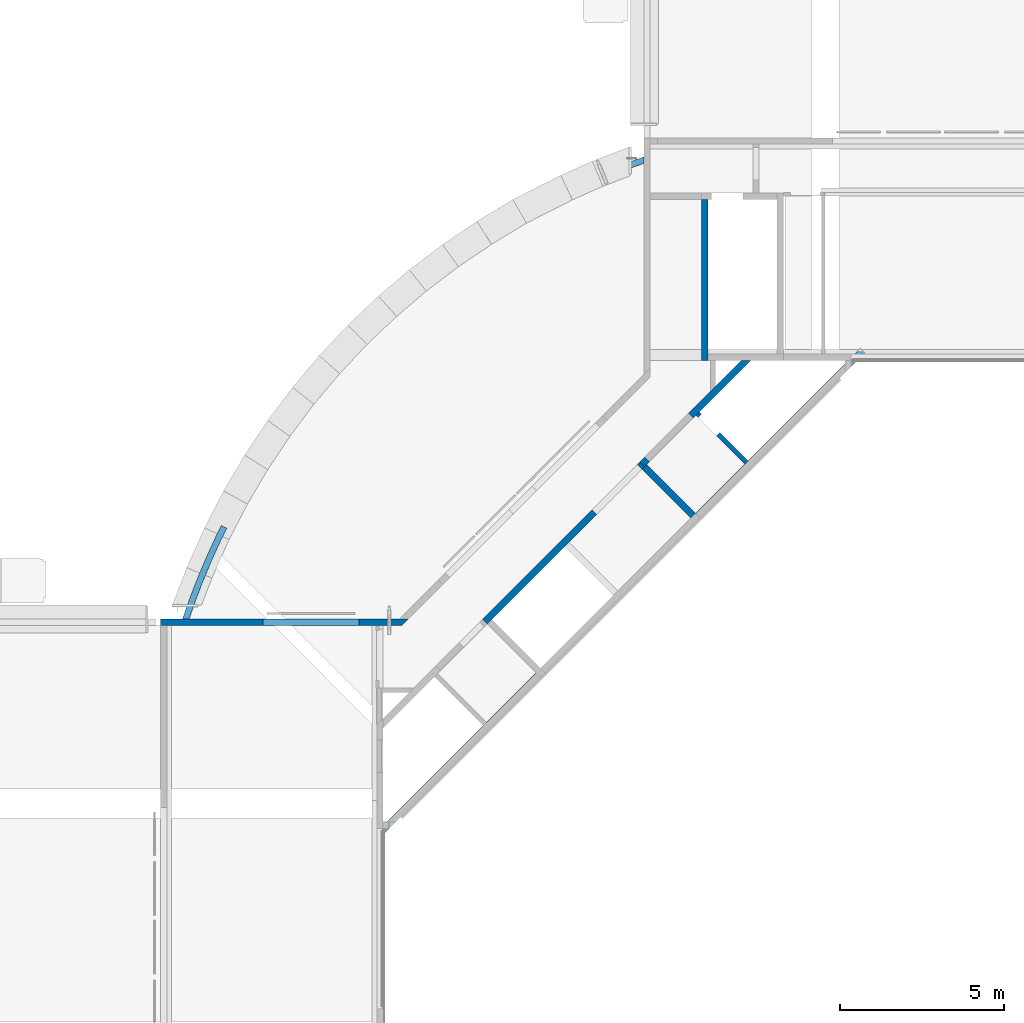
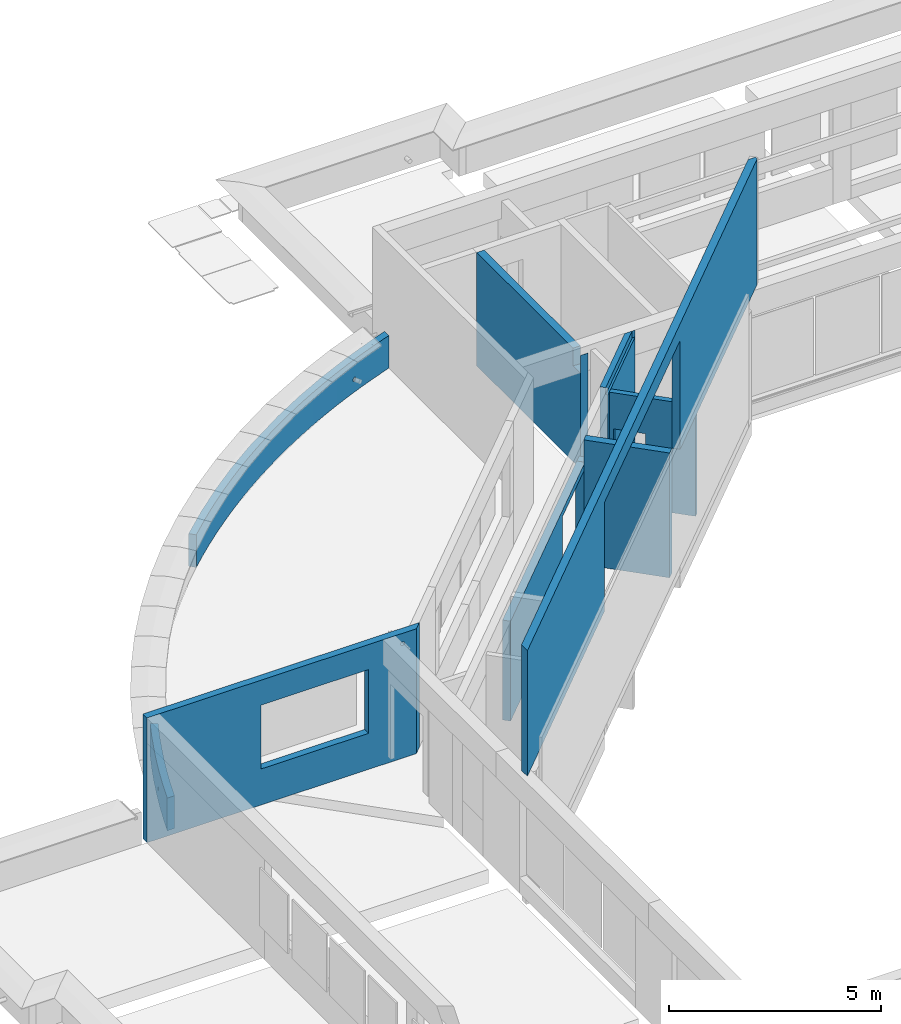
# One storey, part 25 of 38: 10 walls.
"""IFC4X3_ADD2 building model written with IfcOpenShell, lengths in millimetres."""

from ifc_helpers import new_model, si_unit, direction, frame, origin_with_axes, place, context, subcontext, project, spatial, polygons, element, save


model = new_model("IFC4X3_ADD2")

# Units and contexts
model_context = context("Model", 3, precision=1e-05, world=origin_with_axes(), true_north=direction((0.0, 1.0)))
body_context = subcontext(model_context, "Body", "Model", "MODEL_VIEW")
ifc_project = project(units=[si_unit("LENGTHUNIT", "METRE", prefix="MILLI"), si_unit("AREAUNIT", "SQUARE_METRE"), si_unit("VOLUMEUNIT", "CUBIC_METRE"), si_unit("PLANEANGLEUNIT", "RADIAN"), si_unit("TIMEUNIT", "SECOND"), si_unit("MASSUNIT", "GRAM")], contexts=[model_context])

# Site, building, storey
site_placement = place(None, origin_with_axes())
site = spatial("IfcSite", under=ifc_project, at=site_placement, Name="Site", CompositionType="ELEMENT")
building_placement = place(site_placement, origin_with_axes())
building = spatial("IfcBuilding", under=site, at=building_placement, Name="IFC Building Story")
storey_placement = place(building_placement, frame((0.0, 0.0, 10800.0), z_axis=(0.0, 0.0, 1.0), x_axis=(1.0, 0.0, 0.0)))
storey = spatial("IfcBuildingStorey", under=building, at=storey_placement, Name="030", Elevation=10800.0)

# Walls
wall_1_placement = place(storey_placement, frame((0.0, 0.0, -10800.0), z_axis=(0.0, 0.0, 1.0), x_axis=(1.0, 0.0, 0.0)))
element("IfcWall", 1, at=wall_1_placement, inside=storey, Name="Basic Wall:BB_XX_Wand uit beton, 200 mm", ObjectType="Basic Wall:BB_XX_Wand uit beton, 200 mm", PredefinedType="SOLIDWALL", context=body_context, shape_type="Tessellation", body=[
    polygons([(-30719.00667860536, 35293.98755288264, 14200.0), (-30719.00667860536, 35293.98755288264, 10600.0), (-29234.08243811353, 33809.0633123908, 10600.0), (-29234.08243811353, 33809.0633123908, 14200.0), (-30577.58532236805, 35435.40890911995, 10600.0), (-30577.58532236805, 35435.40890911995, 14200.0), (-29092.66108187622, 33950.48466862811, 14200.0), (-29092.66108187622, 33950.48466862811, 10600.0)], [[[1, 2, 3, 4]], [[5, 6, 7, 8]], [[2, 5, 8, 3]], [[6, 1, 4, 7]], [[2, 1, 6, 5]], [[4, 3, 8, 7]]]),
])
wall_2_placement = place(storey_placement, frame((0.0, 0.0, -10800.0), z_axis=(0.0, 0.0, 1.0), x_axis=(1.0, 0.0, 0.0)))
element("IfcWall", 2, at=wall_2_placement, inside=storey, Name="Basic Wall:BB_XX_Wand uit beton, 200 mm", ObjectType="Basic Wall:BB_XX_Wand uit beton, 200 mm", PredefinedType="SOLIDWALL", context=body_context, shape_type="Tessellation", body=[
    polygons([(-28700.0, 38599.9959341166, 10720.0), (-28700.0, 43500.00000000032, 10720.0), (-28700.0, 43500.00000000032, 13990.0), (-28700.0, 38944.9959341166, 13990.0), (-28700.0, 38944.9959341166, 13479.99999999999), (-28700.0, 38604.9959341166, 13479.99999999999), (-28700.0, 38604.9959341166, 13990.0), (-28700.0, 38599.9959341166, 13990.0), (-28900.0, 43500.00000000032, 10720.0), (-28900.0, 38599.9959341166, 10720.0), (-28900.0, 38599.9959341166, 13990.0), (-28900.0, 38604.9959341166, 13990.0), (-28900.0, 38604.9959341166, 13479.99999999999), (-28900.0, 38944.9959341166, 13479.99999999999), (-28900.0, 38944.9959341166, 13990.0), (-28900.0, 43500.00000000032, 13990.0)], [[[6, 7, 8]], [[6, 8, 1]], [[1, 5, 6]], [[5, 1, 2]], [[5, 2, 3]], [[3, 4, 5]], [[14, 15, 16]], [[16, 9, 10]], [[16, 10, 14]], [[10, 13, 14]], [[10, 11, 13]], [[11, 12, 13]], [[2, 1, 10, 9]], [[3, 16, 15, 4]], [[1, 8, 11, 10]], [[14, 5, 4, 15]], [[5, 14, 13, 6]], [[6, 13, 12, 7]], [[3, 2, 9, 16]], [[11, 8, 7, 12]]]),
])
wall_3_placement = place(storey_placement, frame((0.0, 0.0, -10800.0), z_axis=(0.0, 0.0, 1.0), x_axis=(1.0, 0.0, 0.0)))
element("IfcWall", 3, at=wall_3_placement, inside=storey, Name="Basic Wall:BB_XX_Wand uit beton, 190 mm", ObjectType="Basic Wall:BB_XX_Wand uit beton, 190 mm", PredefinedType="SOLIDWALL", context=body_context, shape_type="Tessellation", body=[
    polygons([(-43788.29660811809, 32590.23681334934, 11540.0), (-43580.53224386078, 33045.69682025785, 11540.0), (-43362.53615556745, 33496.3491856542, 11540.0), (-43532.63045651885, 33581.01280702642, 11540.0), (-43757.04823159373, 33116.80155746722, 11540.0), (-43970.70166419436, 32647.53869645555, 11540.0), (-44173.47712704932, 32173.47379198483, 11540.0), (-44365.2667781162, 31694.85896591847, 11540.0), (-44545.96861793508, 31211.94875990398, 11540.0), (-44715.48654387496, 30725.00000000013, 11540.0), (-44514.99716734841, 30724.99999999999, 11540.0), (-44349.16624706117, 31197.34516492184, 11540.0), (-44172.71162831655, 31665.82527813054, 11540.0), (-43985.72329633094, 32130.20143239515, 11540.0), (-44715.48654387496, 30725.00000000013, 10600.0), (-44545.96861793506, 31211.948759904, 10600.0), (-44365.26677811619, 31694.85896591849, 10600.0), (-44173.47712704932, 32173.47379198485, 10600.0), (-43970.70166419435, 32647.53869645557, 10600.0), (-43757.04823159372, 33116.80155746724, 10600.0), (-43532.63045651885, 33581.01280702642, 10600.0), (-43362.53615556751, 33496.34918565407, 10600.0), (-43580.53224386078, 33045.69682025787, 10600.0), (-43788.29660811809, 32590.23681334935, 10600.0), (-43985.72329633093, 32130.20143239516, 10600.0), (-44172.71162831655, 31665.82527813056, 10600.0), (-44349.16624706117, 31197.34516492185, 10600.0), (-44514.99716734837, 30725.00000000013, 10600.0), (-44128.19210370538, 31779.17305187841, 10980.18245299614), (-44126.98962944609, 31782.20873289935, 10989.16691625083), (-44125.7871551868, 31785.24441392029, 10998.15137950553), (-44121.26353613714, 31796.65029265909, 11012.79344761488), (-44115.15268004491, 31812.02906341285, 11022.35997571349), (-44112.81722332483, 31817.89291205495, 11023.47420508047), (-44108.18979032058, 31829.51143896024, 11025.68191961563), (-44118.20810809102, 31804.33967803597, 11017.57671166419), (-44128.19150766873, 31779.17455723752, 10961.08225724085), (-44125.78523517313, 31785.24925896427, 10943.11224327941), (-44126.98837142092, 31782.2119081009, 10952.09725026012), (-44121.26245086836, 31796.65302685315, 10928.47482574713), (-44108.18979032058, 31829.51143896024, 10915.58647491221), (-44115.14933037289, 31812.03748413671, 10918.90578227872), (-44118.20589062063, 31804.34525549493, 10923.69030401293), (-44101.21206280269, 31846.98789760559, 11022.35997571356), (-44098.13784921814, 31854.66979182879, 11017.57671166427), (-44095.06363563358, 31862.35168605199, 11012.79344761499), (-44090.49734210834, 31873.74054738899, 10998.15137950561), (-44089.28093975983, 31876.77067427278, 10989.16691625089), (-44088.06453741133, 31879.80080115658, 10980.18245299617), (-44103.55249633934, 31841.12603358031, 11023.47420508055), (-44088.06514079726, 31879.79929872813, 10961.08225724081), (-44089.28221186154, 31876.76750468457, 10952.09725026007), (-44090.49928292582, 31873.735710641, 10943.11224327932), (-44095.06472962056, 31862.34895533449, 10928.47482574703), (-44098.14007819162, 31854.66421895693, 10923.69030401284), (-44101.21542676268, 31846.97948257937, 10918.90578227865), (-44264.5508442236, 31950.17692424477, 10953.16558240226), (-44277.70067163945, 31917.35692291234, 10910.98911297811), (-44274.62540239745, 31925.04169237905, 10915.77363239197), (-44271.55013315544, 31932.72646184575, 10920.55815180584), (-44266.9848669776, 31944.11329131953, 10935.1955676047), (-44265.7678556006, 31947.14510778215, 10944.18057500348), (-44284.67497240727, 31899.88885368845, 10907.66980824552), (-44264.55024285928, 31950.17842172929, 10972.26577798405), (-44271.54904161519, 31932.72918656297, 11004.87677369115), (-44265.7665864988, 31947.14827006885, 10981.25024085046), (-44266.98293013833, 31944.11811840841, 10990.23470371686), (-44274.62317489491, 31925.04726171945, 11009.66004007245), (-44277.69730817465, 31917.36533687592, 11014.44330645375), (-44281.18614029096, 31908.62709528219, 11016.10427970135), (-44284.67497240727, 31899.88885368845, 11017.76525294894), (-44291.63457563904, 31882.41492349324, 10910.98911297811), (-44302.2708231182, 31855.6268298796, 10935.1955676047), (-44297.74785679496, 31867.03052736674, 10920.55815180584), (-44294.691216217, 31874.72272542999, 10915.77363239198), (-44304.6772130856, 31849.55217776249, 10953.16558240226), (-44304.67780718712, 31849.55067738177, 10972.26577798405), (-44303.4740181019, 31852.58950382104, 10944.18057500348), (-44297.74893971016, 31867.02779921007, 11004.87677369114), (-44302.27273937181, 31855.62199458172, 10990.23470371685), (-44288.15644867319, 31891.14767878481, 11016.10427970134), (-44291.63792493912, 31882.40650388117, 11014.44330645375), (-44294.69343232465, 31874.71715154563, 11009.66004007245), (-44303.47527327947, 31852.58633598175, 10981.25024085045)], [[[2, 3, 4]], [[2, 4, 5]], [[5, 6, 1]], [[5, 1, 2]], [[9, 10, 11]], [[9, 11, 12]], [[12, 13, 8]], [[12, 8, 9]], [[13, 14, 7]], [[13, 7, 8]], [[14, 1, 6]], [[14, 6, 7]], [[20, 21, 22]], [[20, 22, 23]], [[23, 24, 19]], [[23, 19, 20]], [[24, 25, 18]], [[24, 18, 19]], [[25, 26, 17]], [[25, 17, 18]], [[26, 27, 16]], [[26, 16, 17]], [[27, 28, 15]], [[27, 15, 16]], [[12, 11, 28, 27]], [[12, 29, 30, 31]], [[13, 12, 32]], [[29, 12, 27]], [[13, 33, 34, 35]], [[12, 31, 32]], [[13, 32, 36, 33]], [[35, 14, 13]], [[37, 29, 27]], [[27, 26, 38]], [[27, 38, 39, 37]], [[26, 40, 38]], [[26, 41, 42]], [[26, 42, 43, 40]], [[25, 41, 26]], [[14, 44, 45, 46]], [[1, 47, 48, 49]], [[47, 1, 46]], [[46, 1, 14]], [[2, 1, 24, 23]], [[24, 1, 49]], [[14, 35, 50, 44]], [[3, 2, 23, 22]], [[25, 51, 52, 53]], [[25, 54, 55, 56]], [[54, 25, 53]], [[24, 51, 25]], [[24, 49, 51]], [[41, 25, 56]], [[4, 3, 22, 21]], [[19, 6, 5, 20]], [[20, 5, 4, 21]], [[19, 18, 57]], [[18, 58, 59, 60]], [[18, 61, 62, 57]], [[60, 61, 18]], [[18, 63, 58]], [[57, 64, 19]], [[7, 6, 65]], [[6, 64, 66, 67]], [[7, 65, 68, 69]], [[67, 65, 6]], [[64, 6, 19]], [[7, 69, 70, 71]], [[72, 63, 17]], [[73, 74, 17]], [[17, 74, 75, 72]], [[76, 16, 77]], [[16, 76, 78, 73]], [[16, 73, 17]], [[16, 15, 10, 9]], [[63, 18, 17]], [[79, 80, 9]], [[8, 71, 81, 82]], [[8, 82, 83, 79]], [[16, 9, 77]], [[8, 79, 9]], [[9, 80, 84, 77]], [[71, 8, 7]], [[15, 28, 11, 10]], [[81, 71, 35]], [[81, 35, 34]], [[34, 33, 82]], [[34, 82, 81]], [[29, 77, 84]], [[84, 80, 30]], [[83, 82, 33]], [[83, 33, 36]], [[36, 32, 79]], [[36, 79, 83]], [[31, 30, 80]], [[30, 29, 84]], [[31, 80, 79]], [[39, 38, 78]], [[39, 78, 76]], [[76, 37, 39]], [[38, 73, 78]], [[32, 31, 79]], [[75, 74, 40]], [[75, 40, 43]], [[43, 42, 72]], [[43, 72, 75]], [[29, 37, 77]], [[40, 74, 73, 38]], [[41, 63, 72, 42]], [[77, 37, 76]], [[58, 63, 41, 56]], [[61, 60, 54, 53]], [[45, 44, 69]], [[45, 69, 68]], [[68, 65, 46]], [[68, 46, 45]], [[59, 58, 56]], [[59, 56, 55]], [[55, 54, 60]], [[55, 60, 59]], [[62, 61, 53]], [[52, 51, 57]], [[57, 62, 53]], [[57, 53, 52]], [[48, 47, 67]], [[48, 66, 49]], [[70, 69, 44]], [[70, 44, 50]], [[50, 35, 71]], [[50, 71, 70]], [[51, 64, 57]], [[67, 66, 48]], [[66, 64, 49]], [[47, 65, 67]], [[65, 47, 46]], [[51, 49, 64]]]),
])
wall_4_placement = place(storey_placement, frame((0.0, 0.0, -10800.0), z_axis=(0.0, 0.0, 1.0), x_axis=(1.0, 0.0, 0.0)))
element("IfcWall", 4, at=wall_4_placement, inside=storey, Name="Basic Wall:BB_XX_Wand uit beton, 190 mm", ObjectType="Basic Wall:BB_XX_Wand uit beton, 190 mm", PredefinedType="SOLIDWALL", context=body_context, shape_type="Tessellation", body=[
    polygons([(-32003.43823028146, 44303.17312906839, 11540.0), (-32884.13354008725, 43919.53611184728, 11540.0), (-33747.53603304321, 43498.42293443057, 11540.0), (-34592.05214952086, 43040.61091948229, 11540.0), (-35820.01491762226, 42286.94919574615, 11540.0), (-36610.57899641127, 41741.23129421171, 11540.0), (-37376.97233051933, 41162.05780368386, 11540.0), (-38117.78032098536, 40550.49764078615, 11540.0), (-38831.63556707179, 39907.67947073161, 11540.0), (-38701.49036344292, 39769.25177851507, 11540.0), (-38334.18241501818, 40106.87714555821, 11540.0), (-37959.36957754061, 40436.15108472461, 11540.0), (-37577.24167705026, 40756.90683492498, 11540.0), (-37187.99226498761, 41068.98193116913, 11540.0), (-36791.81849471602, 41372.21830972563, 11540.0), (-36388.9210266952, 41666.46238365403, 11540.0), (-35979.50392686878, 41951.56512057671, 11540.0), (-35563.77456330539, 42227.38211816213, 11540.0), (-35141.94350116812, 42493.77367726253, 11540.0), (-34714.22439606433, 42750.60487266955, 11540.0), (-34280.83388583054, 42997.74562145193, 11540.0), (-33841.99148080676, 43235.07074884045, 11540.0), (-33397.91945265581, 43462.46005162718, 11540.0), (-32948.8427217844, 43679.7983590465, 11540.0), (-32494.98874342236, 43886.97559110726, 11540.0), (-32036.58739241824, 44083.88681434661, 11540.0), (-31573.87084680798, 44270.43229497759, 11540.0), (-31107.07497289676, 44446.51700179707, 11540.0), (-31073.08777549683, 44458.87120788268, 11540.0), (-31039.07497289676, 44471.17193722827, 11540.0), (-30849.84099896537, 44538.46668262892, 11540.0), (-30660.00000000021, 44604.04596498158, 11540.0), (-30660.00000000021, 44804.65227189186, 11540.0), (-30735.04835180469, 44779.20095321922, 11540.0), (-30810.00431283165, 44753.48437358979, 11540.0), (-30924.64960639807, 44713.57499193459, 11540.0), (-31039.07497289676, 44673.04428232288, 11540.0), (-31073.08830234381, 44660.8613712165, 11540.0), (-31107.07497289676, 44648.62601305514, 11540.0), (-38701.49036344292, 39769.25177851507, 10600.0), (-38831.63556707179, 39907.67947073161, 10600.0), (-38079.99600862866, 40583.00626400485, 10600.0), (-37298.61106543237, 41223.68228412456, 10600.0), (-36489.07672949, 41828.39894889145, 10600.0), (-35653.0464876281, 42395.92112355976, 10600.0), (-35003.05855753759, 42785.43576334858, 10600.0), (-34353.07062744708, 43174.95040313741, 10600.0), (-33458.38116335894, 43644.5869794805, 10600.0), (-32543.38603180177, 44073.31950150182, 10600.0), (-31609.95412181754, 44460.27228374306, 10600.0), (-30660.00000000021, 44804.65227189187, 10600.0), (-30660.00000000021, 44604.0459649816, 10600.0), (-31129.21642247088, 44438.43488746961, 10600.0), (-31594.60669858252, 44262.33062994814, 10600.0), (-32055.92709697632, 44075.82506784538, 10600.0), (-32512.94518706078, 43879.01216846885, 10600.0), (-32965.43070583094, 43671.9910922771, 10600.0), (-33413.1556738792, 43454.86614292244, 10600.0), (-33855.89451025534, 43227.74671470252, 10600.0), (-34293.4241461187, 42990.74723744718, 10600.0), (-34725.52413712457, 42743.98711886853, 10600.0), (-35151.97677448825, 42487.59068440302, 10600.0), (-35572.56719467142, 42221.68711457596, 10600.0), (-35987.08348763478, 41946.41037992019, 10600.0), (-36395.3168036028, 41661.89917348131, 10600.0), (-36797.06145828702, 41368.29684094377, 10600.0), (-37192.11503651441, 41065.75130841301, 10600.0), (-37580.27849420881, 40754.41500788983, 10600.0), (-37961.35625867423, 40434.44480047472, 10600.0), (-38335.15631309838, 40106.00190995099, 10600.0), (-31893.30211107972, 44142.94893631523, 11012.79344761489), (-31860.54707929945, 44156.28631457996, 11025.68191961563), (-31848.95859465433, 44160.98847656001, 11023.47420508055), (-31843.10990828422, 44163.36164885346, 11022.35997571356), (-31877.97823797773, 44149.19618092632, 11022.35997571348), (-31872.13156823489, 44151.57431715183, 11023.47420508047), (-31904.6613286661, 44138.30939162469, 10998.15137950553), (-31885.64017452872, 44146.07255862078, 11017.57671166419), (-31910.70578915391, 44135.83760849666, 10980.18245299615), (-31907.68355891, 44137.07350006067, 10989.16691625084), (-31827.77081122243, 44169.57141965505, 11012.79344761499), (-31816.39430175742, 44174.1684003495, 10998.15137950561), (-31813.36642779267, 44175.39039988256, 10989.16691625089), (-31810.33855382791, 44176.61239941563, 10980.18245299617), (-31835.44035975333, 44166.46653425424, 11017.57671166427), (-31910.70429064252, 44135.83822154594, 10961.08225724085), (-31893.29938746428, 44142.95004786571, 10928.47482574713), (-31904.65650451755, 44138.31136355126, 10943.1122432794), (-31907.68039758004, 44137.07479254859, 10952.09725026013), (-31860.54707929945, 44156.28631457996, 10915.58647491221), (-31877.96984479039, 44149.19959901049, 10918.90578227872), (-31885.63461612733, 44146.0748234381, 10923.69030401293), (-31816.39913433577, 44174.16644917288, 10943.11224327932), (-31827.77353837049, 44169.57031680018, 10928.47482574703), (-31810.34005531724, 44176.61179369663, 10961.08225724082), (-31813.36959482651, 44175.38912143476, 10952.09725026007), (-31843.1183072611, 44163.35824502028, 10918.90578227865), (-31835.4459228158, 44166.46428091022, 10923.69030401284), (-31881.85131247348, 44352.64120119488, 10972.26577798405), (-31881.852808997, 44352.64059744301, 10953.16558240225), (-31887.91183765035, 44350.19513576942, 10935.1955676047), (-31884.88232332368, 44351.41786660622, 10944.18057500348), (-31884.87916363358, 44351.41914215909, 10981.25024085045), (-31887.90701479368, 44350.19708312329, 10990.23470371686), (-31932.05962381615, 44332.31459633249, 10907.66980824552), (-31914.63087681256, 44339.38658979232, 10910.98911297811), (-31949.48241531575, 44325.22794338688, 10910.98911297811), (-31899.2861701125, 44345.59882183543, 10920.55815180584), (-31964.81202518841, 44318.9785504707, 10920.55815180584), (-31957.14722025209, 44322.10324692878, 10915.77363239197), (-31906.95852346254, 44342.49270581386, 10915.77363239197), (-31899.28344898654, 44345.59992229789, 11004.87677369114), (-31906.95296396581, 44342.49495777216, 11009.66004007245), (-31914.62247894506, 44339.38999324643, 11014.44330645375), (-31923.34105138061, 44335.85229478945, 11016.10427970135), (-31932.05962381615, 44332.31459633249, 11017.76525294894), (-31940.77521562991, 44328.7695610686, 11016.10427970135), (-31949.49080744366, 44325.22452580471, 11014.44330645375), (-31982.21854288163, 44311.86641227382, 10972.26577798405), (-31982.21704930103, 44311.86702326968, 10953.16558240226), (-31979.19313343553, 44313.10353473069, 10944.18057500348), (-31976.16921757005, 44314.3400461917, 10935.19556760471), (-31964.81474281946, 44318.97744140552, 11004.87677369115), (-31976.17403208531, 44314.33807830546, 10990.23470371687), (-31979.19628748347, 44313.10224528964, 10981.25024085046), (-31957.15277513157, 44322.10098360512, 11009.66004007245)], [[[11, 12, 8]], [[8, 9, 10]], [[8, 10, 11]], [[13, 14, 7]], [[7, 8, 12]], [[7, 12, 13]], [[15, 16, 6]], [[6, 7, 14]], [[6, 14, 15]], [[17, 18, 5]], [[5, 6, 16]], [[5, 16, 17]], [[20, 21, 4]], [[4, 5, 19]], [[4, 19, 20]], [[5, 18, 19]], [[21, 22, 3]], [[21, 3, 4]], [[23, 24, 2]], [[23, 2, 3]], [[3, 22, 23]], [[25, 26, 1]], [[25, 1, 2]], [[2, 24, 25]], [[35, 36, 31]], [[35, 31, 32]], [[32, 34, 35]], [[32, 33, 34]], [[38, 39, 30]], [[30, 37, 38]], [[30, 31, 36]], [[30, 36, 37]], [[39, 29, 30]], [[39, 28, 29]], [[39, 1, 27]], [[39, 27, 28]], [[1, 26, 27]], [[53, 54, 50]], [[50, 51, 52]], [[50, 52, 53]], [[55, 56, 49]], [[49, 50, 54]], [[49, 54, 55]], [[57, 58, 48]], [[48, 49, 56]], [[48, 56, 57]], [[59, 60, 47]], [[47, 48, 58]], [[47, 58, 59]], [[60, 61, 46]], [[60, 46, 47]], [[62, 63, 45]], [[62, 45, 46]], [[46, 61, 62]], [[64, 65, 44]], [[44, 45, 63]], [[44, 63, 64]], [[66, 67, 43]], [[43, 44, 65]], [[43, 65, 66]], [[68, 69, 42]], [[42, 43, 67]], [[42, 67, 68]], [[70, 40, 41]], [[41, 42, 69]], [[41, 69, 70]], [[69, 12, 11]], [[70, 11, 10]], [[67, 14, 13]], [[65, 16, 15]], [[66, 15, 14]], [[68, 13, 12]], [[63, 18, 17]], [[61, 20, 19]], [[62, 19, 18]], [[59, 22, 21]], [[57, 24, 23]], [[58, 23, 22]], [[60, 21, 20]], [[64, 17, 16]], [[40, 70, 10]], [[70, 69, 11]], [[69, 68, 12]], [[68, 67, 13]], [[14, 67, 66]], [[15, 66, 65]], [[65, 64, 16]], [[64, 63, 17]], [[62, 18, 63]], [[19, 62, 61]], [[20, 61, 60]], [[59, 21, 60]], [[22, 59, 58]], [[58, 57, 23]], [[57, 56, 24]], [[26, 25, 71]], [[27, 72, 73, 74]], [[26, 75, 76, 72]], [[25, 77, 71]], [[26, 71, 78, 75]], [[27, 26, 72]], [[25, 79, 80, 77]], [[81, 28, 27]], [[29, 28, 53]], [[28, 82, 83, 84]], [[82, 28, 81]], [[31, 30, 53]], [[30, 29, 53]], [[32, 31, 52]], [[27, 74, 85, 81]], [[56, 86, 79]], [[55, 87, 88]], [[56, 88, 89, 86]], [[55, 88, 56]], [[55, 90, 91]], [[55, 91, 92, 87]], [[54, 90, 55]], [[25, 56, 79]], [[54, 93, 94]], [[53, 84, 95]], [[53, 95, 96, 93]], [[90, 54, 97]], [[54, 94, 98, 97]], [[53, 93, 54]], [[84, 53, 28]], [[53, 52, 31]], [[24, 56, 25]], [[51, 50, 99]], [[100, 99, 50]], [[51, 99, 39]], [[50, 101, 102, 100]], [[39, 99, 103, 104]], [[105, 106, 50]], [[107, 105, 50]], [[108, 101, 50]], [[49, 109, 110, 107]], [[50, 106, 111, 108]], [[107, 50, 49]], [[36, 51, 37]], [[46, 5, 4]], [[33, 51, 34]], [[34, 51, 35]], [[46, 45, 5]], [[35, 51, 36]], [[39, 112, 113, 114]], [[39, 38, 51]], [[1, 39, 114]], [[1, 114, 115, 116]], [[1, 116, 117, 118]], [[38, 37, 51]], [[39, 104, 112]], [[119, 49, 2]], [[49, 120, 121, 122]], [[119, 120, 49]], [[2, 49, 48]], [[49, 122, 109]], [[6, 44, 43]], [[7, 43, 42]], [[4, 47, 46]], [[5, 45, 44]], [[47, 3, 48]], [[8, 42, 41]], [[123, 124, 2]], [[2, 1, 123]], [[2, 124, 125, 119]], [[3, 2, 48]], [[1, 118, 126, 123]], [[6, 43, 7]], [[7, 42, 8]], [[3, 47, 4]], [[5, 44, 6]], [[41, 9, 8]], [[10, 9, 41, 40]], [[117, 116, 72]], [[117, 72, 76]], [[76, 75, 118]], [[76, 118, 117]], [[79, 119, 125]], [[125, 124, 80]], [[126, 118, 75]], [[126, 75, 78]], [[78, 71, 123]], [[78, 123, 126]], [[77, 80, 124]], [[80, 79, 125]], [[77, 124, 123]], [[89, 88, 121]], [[89, 121, 120]], [[120, 86, 89]], [[88, 122, 121]], [[71, 77, 123]], [[110, 109, 87]], [[110, 87, 92]], [[92, 91, 107]], [[92, 107, 110]], [[79, 86, 119]], [[87, 109, 122, 88]], [[90, 105, 107, 91]], [[119, 86, 120]], [[106, 105, 90, 97]], [[101, 108, 94, 93]], [[85, 74, 114]], [[85, 114, 113]], [[113, 112, 81]], [[113, 81, 85]], [[111, 106, 97]], [[111, 97, 98]], [[98, 94, 108]], [[98, 108, 111]], [[102, 101, 93]], [[96, 95, 100]], [[100, 102, 93]], [[100, 93, 96]], [[83, 82, 104]], [[83, 103, 84]], [[115, 114, 74]], [[115, 74, 73]], [[73, 72, 116]], [[73, 116, 115]], [[95, 99, 100]], [[104, 103, 83]], [[103, 99, 84]], [[82, 112, 104]], [[112, 82, 81]], [[95, 84, 99]], [[52, 51, 33, 32]]]),
])
wall_5_placement = place(storey_placement, frame((0.0, 0.0, -10800.0), z_axis=(0.0, 0.0, 1.0), x_axis=(1.0, 0.0, 0.0)))
element("IfcWall", 5, at=wall_5_placement, inside=storey, Name="Basic Wall:BB_XX_Wand uit beton, 190 mm", ObjectType="Basic Wall:BB_XX_Wand uit beton, 190 mm", PredefinedType="SOLIDWALL", context=body_context, shape_type="Tessellation", body=[
    polygons([(-38030.64971157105, 30535.0, 10600.0), (-38030.64971157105, 30535.0, 14200.0), (-45380.0, 30535.0, 14200.0), (-45379.99999999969, 30535.0, 10600.0), (-38435.68282183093, 30535.0, 13949.62937757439), (-38423.28540890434, 30535.0, 13954.33517570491), (-38410.12304736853, 30535.0, 13955.93476247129), (-38396.96068583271, 30535.0, 13954.33517570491), (-38384.56327290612, 30535.0, 13949.62937757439), (-38373.65130116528, 30535.0, 13942.09085196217), (-38364.85893474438, 30535.0, 13932.15771057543), (-38358.69715402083, 30535.0, 13920.40723148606), (-38355.52405929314, 30535.0, 13907.52230982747), (-38355.52405929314, 30535.0, 13894.25177041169), (-38358.69715402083, 30535.0, 13881.3668487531), (-38364.85893474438, 30535.0, 13869.61636966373), (-38373.65130116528, 30535.0, 13859.68322827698), (-38384.56327290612, 30535.0, 13852.14470266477), (-38396.96068583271, 30535.0, 13847.43890453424), (-38410.12304736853, 30535.0, 13845.83931776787), (-38423.28540890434, 30535.0, 13847.43890453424), (-38435.68282183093, 30535.0, 13852.14470266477), (-38446.59479357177, 30535.0, 13859.68322827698), (-38455.38715999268, 30535.0, 13869.61636966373), (-38461.54894071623, 30535.0, 13881.3668487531), (-38464.72203544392, 30535.0, 13894.25177041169), (-38464.72203544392, 30535.0, 13907.52230982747), (-38461.54894071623, 30535.0, 13920.40723148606), (-38455.38715999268, 30535.0, 13932.15771057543), (-38446.59479357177, 30535.0, 13942.09085196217), (-42264.99999996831, 30535.0, 11640.0), (-42264.99999996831, 30535.0, 13480.0), (-39334.99999996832, 30535.0, 13480.0), (-39334.99999996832, 30535.0, 11640.0), (-37840.64971157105, 30725.0, 14200.0), (-37840.64971157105, 30725.0, 10600.0), (-38109.35028842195, 30725.0, 10600.0), (-44514.99716734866, 30725.0, 10600.0), (-44715.48654387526, 30725.0, 10600.0), (-45379.99999999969, 30725.0, 10600.0), (-45380.0, 30725.0, 14200.0), (-38109.35028842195, 30725.0, 14200.0), (-39334.99999996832, 30725.0, 13480.0), (-42264.99999996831, 30725.0, 13480.0), (-42264.99999996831, 30725.0, 11640.0), (-39334.99999996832, 30725.0, 11640.0), (-38373.65130116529, 30725.0, 13851.7665616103), (-38364.85893474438, 30725.0, 13861.69970299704), (-38358.69715402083, 30725.0, 13873.45018208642), (-38355.52405929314, 30725.0, 13886.335103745), (-38355.52405929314, 30725.0, 13899.60564316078), (-38358.69715402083, 30725.0, 13912.49056481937), (-38364.85893474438, 30725.0, 13924.24104390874), (-38373.65130116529, 30725.0, 13934.17418529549), (-38384.56327290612, 30725.0, 13941.7127109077), (-38396.96068583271, 30725.0, 13946.41850903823), (-38410.12304736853, 30725.0, 13948.0180958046), (-38423.28540890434, 30725.0, 13946.41850903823), (-38435.68282183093, 30725.0, 13941.7127109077), (-38446.59479357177, 30725.0, 13934.17418529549), (-38455.38715999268, 30725.0, 13924.24104390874), (-38461.54894071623, 30725.0, 13912.49056481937), (-38464.72203544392, 30725.0, 13899.60564316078), (-38464.72203544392, 30725.0, 13886.335103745), (-38461.54894071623, 30725.0, 13873.45018208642), (-38455.38715999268, 30725.0, 13861.69970299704), (-38446.59479357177, 30725.0, 13851.7665616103), (-38435.68282183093, 30725.0, 13844.22803599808), (-38423.28540890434, 30725.0, 13839.52223786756), (-38410.12304736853, 30725.0, 13837.92265110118), (-38396.96068583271, 30725.0, 13839.52223786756), (-38384.56327290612, 30725.0, 13844.22803599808)], [[[5, 2, 3]], [[3, 30, 5]], [[3, 29, 30]], [[3, 28, 29]], [[3, 27, 28]], [[32, 33, 26]], [[32, 26, 27]], [[32, 27, 3]], [[3, 4, 31]], [[3, 31, 32]], [[33, 25, 26]], [[33, 24, 25]], [[33, 23, 24]], [[33, 22, 23]], [[34, 31, 4]], [[34, 4, 1]], [[1, 21, 22]], [[1, 22, 33]], [[1, 33, 34]], [[1, 20, 21]], [[1, 19, 20]], [[1, 18, 19]], [[1, 17, 18]], [[1, 16, 17]], [[1, 2, 16]], [[2, 15, 16]], [[2, 14, 15]], [[2, 13, 14]], [[2, 12, 13]], [[2, 11, 12]], [[2, 10, 11]], [[2, 9, 10]], [[2, 8, 9]], [[2, 7, 8]], [[2, 6, 7]], [[2, 5, 6]], [[39, 40, 41]], [[41, 38, 39]], [[72, 47, 37]], [[37, 71, 72]], [[37, 46, 70]], [[37, 70, 71]], [[46, 69, 70]], [[46, 43, 68]], [[46, 68, 69]], [[43, 67, 68]], [[43, 66, 67]], [[43, 65, 66]], [[43, 64, 65]], [[43, 63, 64]], [[43, 62, 63]], [[43, 61, 62]], [[43, 60, 61]], [[43, 59, 60]], [[43, 42, 59]], [[42, 58, 59]], [[42, 57, 58]], [[42, 56, 57]], [[42, 55, 56]], [[42, 54, 55]], [[42, 53, 54]], [[42, 35, 52]], [[42, 52, 53]], [[35, 51, 52]], [[35, 50, 51]], [[35, 49, 50]], [[35, 48, 49]], [[35, 47, 48]], [[37, 38, 45]], [[37, 45, 46]], [[38, 41, 44]], [[38, 44, 45]], [[41, 42, 43]], [[41, 43, 44]], [[47, 35, 36]], [[47, 36, 37]], [[2, 1, 36, 35]], [[37, 36, 1]], [[1, 4, 38]], [[1, 38, 37]], [[4, 39, 38]], [[4, 40, 39]], [[33, 32, 44, 43]], [[42, 41, 3]], [[42, 3, 2]], [[2, 35, 42]], [[31, 34, 46, 45]], [[32, 31, 45, 44]], [[27, 26, 64, 63]], [[34, 33, 43, 46]], [[40, 4, 3, 41]], [[14, 13, 51, 50]], [[5, 59, 58, 6]], [[6, 58, 57, 7]], [[27, 63, 62, 28]], [[29, 61, 60, 30]], [[61, 29, 28, 62]], [[30, 60, 59, 5]], [[64, 26, 25, 65]], [[65, 25, 24, 66]], [[21, 69, 68, 22]], [[68, 67, 23, 22]], [[66, 24, 23, 67]], [[69, 21, 20, 70]], [[71, 70, 20, 19]], [[71, 19, 18, 72]], [[48, 47, 17, 16]], [[16, 15, 49, 48]], [[72, 18, 17, 47]], [[50, 49, 15, 14]], [[12, 11, 53, 52]], [[13, 12, 52, 51]], [[10, 9, 55, 54]], [[8, 7, 57, 56]], [[9, 8, 56, 55]], [[11, 10, 54, 53]]]),
])
wall_6_placement = place(storey_placement, frame((0.0, 0.0, -10800.0), z_axis=(0.0, 0.0, 1.0), x_axis=(1.0, 0.0, 0.0)))
element("IfcWall", 6, at=wall_6_placement, inside=storey, Name="Basic Wall:BB_XX_Wand uit beton, 200 mm", ObjectType="Basic Wall:BB_XX_Wand uit beton, 200 mm", PredefinedType="SOLIDWALL", context=body_context, shape_type="Tessellation", body=[
    polygons([(-30641.22493267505, 35371.76929881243, 10600.0), (-30641.22493267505, 35371.76929881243, 13480.0), (-35435.40890911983, 30577.58532236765, 13480.0), (-35435.40890911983, 30577.58532236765, 10600.0), (-32095.03647479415, 33917.95775669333, 10600.0), (-32095.03647479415, 33917.95775669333, 13295.0), (-30719.00667860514, 35293.98755288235, 13295.0), (-30719.00667860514, 35293.98755288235, 10600.0), (-30782.64628891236, 35513.19065504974, 13480.0), (-30782.64628891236, 35513.19065504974, 10600.0), (-30860.42803484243, 35435.40890911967, 10600.0), (-30860.42803484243, 35435.40890911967, 13295.0), (-32236.45783103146, 34059.37911293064, 13295.0), (-32236.45783103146, 34059.37911293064, 10600.0), (-35576.83026535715, 30719.00667860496, 10600.0), (-35576.83026535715, 30719.00667860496, 13480.0)], [[[7, 8, 1]], [[7, 1, 2]], [[2, 6, 7]], [[6, 2, 3]], [[3, 4, 5]], [[3, 5, 6]], [[13, 14, 15]], [[13, 15, 16]], [[16, 9, 13]], [[9, 12, 13]], [[9, 10, 11]], [[9, 11, 12]], [[4, 15, 14, 5]], [[2, 1, 10, 9]], [[3, 2, 9, 16]], [[4, 3, 16, 15]], [[13, 6, 5, 14]], [[7, 12, 11, 8]], [[6, 13, 12, 7]], [[10, 1, 8, 11]]]),
])
wall_7_placement = place(storey_placement, frame((0.0, 0.0, -10800.0), z_axis=(0.0, 0.0, 1.0), x_axis=(1.0, 0.0, 0.0)))
element("IfcWall", 7, at=wall_7_placement, inside=storey, Name="Basic Wall:BB_XX_Wand uit beton, 200 mm", ObjectType="Basic Wall:BB_XX_Wand uit beton, 200 mm", PredefinedType="SOLIDWALL", context=body_context, shape_type="Tessellation", body=[
    polygons([(-30634.15386486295, 35661.68307909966, 13480.0), (-30634.15386486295, 35661.68307909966, 10600.0), (-30782.64628891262, 35513.19065505, 10600.0), (-30782.64628891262, 35513.19065505, 13480.0), (-30492.73250862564, 35520.26172286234, 10600.0), (-30492.73250862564, 35520.26172286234, 13480.0), (-30641.2249326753, 35371.76929881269, 13480.0), (-30641.2249326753, 35371.76929881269, 10600.0)], [[[1, 2, 3, 4]], [[5, 6, 7, 8]], [[2, 5, 8, 3]], [[6, 1, 4, 7]], [[2, 1, 6, 5]], [[4, 3, 8, 7]]]),
])
wall_8_placement = place(storey_placement, frame((0.0, 0.0, -10800.0), z_axis=(0.0, 0.0, 1.0), x_axis=(1.0, 0.0, 0.0)))
element("IfcWall", 8, at=wall_8_placement, inside=storey, Name="Basic Wall:BB_XX_Wand uit beton, 200 mm", ObjectType="Basic Wall:BB_XX_Wand uit beton, 200 mm", PredefinedType="SOLIDWALL", context=body_context, shape_type="Tessellation", body=[
    polygons([(-27554.41965360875, 38741.41729035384, 10600.0), (-29297.7220484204, 36998.11489554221, 10600.0), (-29297.7220484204, 36998.11489554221, 14200.0), (-27690.84100984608, 38604.99593411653, 14200.0), (-27690.84100984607, 38604.99593411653, 13479.99999999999), (-27695.84100984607, 38599.99593411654, 13479.99999999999), (-27695.84100984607, 38599.99593411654, 10720.0), (-27554.41965360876, 38741.41729035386, 10720.0), (-29156.30069218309, 36856.6935393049, 10600.0), (-27412.99829737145, 38599.99593411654, 10600.0), (-27412.99829737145, 38599.99593411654, 10720.0), (-27412.99829737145, 38599.99593411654, 13480.0), (-27412.99829737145, 38599.99593411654, 14000.0), (-29156.30069218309, 36856.6935393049, 14000.0), (-29195.00446922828, 36895.39731635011, 14000.0), (-29195.00446922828, 36895.39731635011, 14200.0), (-27487.26048719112, 38603.90293790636, 14200.0), (-27416.92098307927, 38603.91861982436, 14200.0), (-27417.99829737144, 38604.99593411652, 14200.0), (-27417.99829737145, 38604.99593411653, 13479.99999999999), (-27416.92098307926, 38603.91861982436, 14000.0), (-27487.26048719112, 38603.90293790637, 14000.0)], [[[7, 8, 1]], [[7, 1, 2]], [[2, 3, 6]], [[2, 6, 7]], [[3, 4, 6]], [[4, 5, 6]], [[12, 13, 14]], [[14, 9, 11]], [[14, 11, 12]], [[9, 10, 11]], [[2, 1, 10, 9]], [[15, 16, 3]], [[15, 3, 2]], [[15, 2, 9]], [[9, 14, 15]], [[17, 18, 19]], [[17, 19, 4]], [[4, 3, 16]], [[4, 16, 17]], [[10, 1, 8, 11]], [[6, 12, 11, 7]], [[8, 7, 11]], [[12, 6, 5, 20]], [[5, 4, 19, 20]], [[21, 22, 15]], [[21, 15, 14]], [[21, 14, 13]], [[22, 17, 16, 15]], [[17, 22, 21, 18]], [[21, 13, 12]], [[21, 12, 20]], [[20, 19, 21]], [[19, 18, 21]]]),
])
wall_9_placement = place(storey_placement, frame((0.0, 0.0, -10800.0), z_axis=(0.0, 0.0, 1.0), x_axis=(1.0, 0.0, 0.0)))
element("IfcWall", 9, at=wall_9_placement, inside=storey, Name="Basic Wall:BB_03.09.24#02_Wand uit metselwerk_EI60_43dB, 140 mm", ObjectType="Basic Wall:BB_03.09.24#02_Wand uit metselwerk_EI60_43dB, 140 mm", PredefinedType="SOLIDWALL", context=body_context, shape_type="Tessellation", body=[
    polygons([(-29071.44787843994, 36941.54635304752, 10800.0), (-29000.73720032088, 36870.83567492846, 10800.0), (-29000.73720032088, 36870.83567492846, 12960.0), (-28442.12284318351, 36312.2213177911, 12960.0), (-28442.1228431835, 36312.2213177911, 10800.0), (-27579.43374846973, 35449.5322230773, 10800.0), (-27579.43374846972, 35449.5322230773, 14000.0), (-29071.44787843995, 36941.54635304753, 14000.0), (-28901.74225095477, 36969.83062429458, 10800.0), (-28972.45292907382, 37040.54130241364, 10800.0), (-28972.45292907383, 37040.54130241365, 14000.0), (-27480.43879910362, 35548.52717244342, 14000.0), (-27480.43879910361, 35548.52717244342, 10800.0), (-28343.12789381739, 36411.21626715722, 10800.0), (-28343.1278938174, 36411.21626715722, 12960.0), (-28901.74225095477, 36969.83062429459, 12960.0)], [[[4, 5, 6]], [[4, 6, 7]], [[7, 8, 4]], [[8, 3, 4]], [[3, 8, 1]], [[1, 2, 3]], [[16, 9, 10]], [[10, 11, 16]], [[11, 15, 16]], [[15, 11, 12]], [[12, 13, 14]], [[12, 14, 15]], [[1, 10, 9, 2]], [[6, 13, 12, 7]], [[10, 1, 8, 11]], [[4, 3, 16, 15]], [[3, 2, 9, 16]], [[5, 4, 15, 14]], [[8, 7, 12, 11]], [[13, 6, 5, 14]]]),
])
wall_10_placement = place(storey_placement, frame((0.0, 0.0, -10800.0), z_axis=(0.0, 0.0, 1.0), x_axis=(1.0, 0.0, 0.0)))
element("IfcWall", 10, at=wall_10_placement, inside=storey, Name="Basic Wall:BB_XX_Wand uit beton, 200 mm", ObjectType="Basic Wall:BB_XX_Wand uit beton, 200 mm", PredefinedType="SOLIDWALL", context=body_context, shape_type="Tessellation", body=[
    polygons([(-38800.00000000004, 23960.30303802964, 14200.0), (-33809.06331239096, 28951.23972563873, 14200.0), (-33809.06331239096, 28951.23972563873, 17340.00000000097), (-28944.16865782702, 33816.13438020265, 17340.00000000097), (-28944.16865782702, 33816.13438020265, 14200.0), (-23973.14981638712, 38787.15322164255, 14200.0), (-23973.14981638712, 38787.15322164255, 17820.0013275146), (-38800.00000000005, 23960.30303802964, 17820.0013275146), (-33950.48466862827, 29092.66108187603, 14200.0), (-38800.00000000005, 24243.14575050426, 14200.0), (-38800.00000000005, 24243.14575050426, 17820.0013275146), (-24173.1498163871, 38869.99593411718, 17820.0013275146), (-24173.14981638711, 38869.99593411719, 14200.0), (-29085.59001406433, 33957.55573643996, 14200.0), (-29085.59001406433, 33957.55573643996, 17340.00000000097), (-33950.48466862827, 29092.66108187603, 17340.00000000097), (-23973.14981638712, 38869.99593411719, 17820.0013275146), (-23973.14981638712, 38869.99593411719, 14200.0)], [[[4, 5, 6]], [[4, 6, 7]], [[7, 3, 4]], [[7, 8, 3]], [[8, 1, 2]], [[8, 2, 3]], [[16, 9, 10]], [[16, 10, 11]], [[11, 15, 16]], [[11, 12, 15]], [[12, 13, 14]], [[12, 14, 15]], [[1, 8, 11, 10]], [[2, 1, 10, 9]], [[11, 8, 7]], [[11, 7, 17]], [[11, 17, 12]], [[3, 2, 9, 16]], [[4, 3, 16, 15]], [[5, 4, 15, 14]], [[5, 14, 13]], [[5, 13, 18]], [[5, 18, 6]], [[13, 12, 17, 18]], [[7, 6, 18, 17]]]),
])

save(model, "model.ifc")
